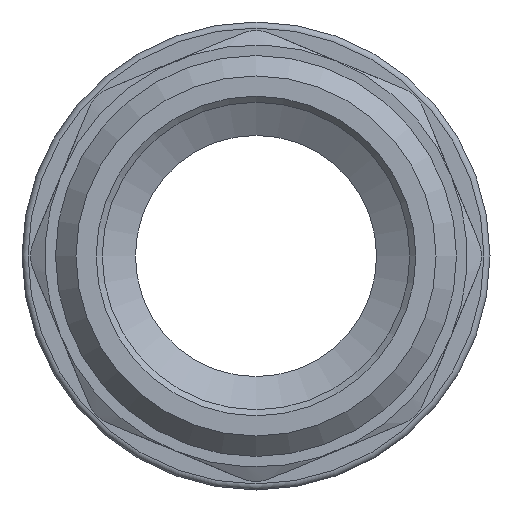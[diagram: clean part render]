
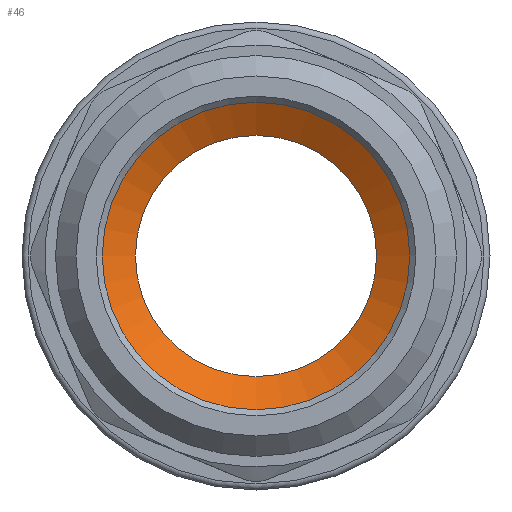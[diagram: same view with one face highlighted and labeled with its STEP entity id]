
A CAD part, front view. The second image highlights one B-rep face of the part: STEP entity #46.
In plain terms, the highlighted conical face has half-angle 60 degrees and reference radius 11.375 mm.
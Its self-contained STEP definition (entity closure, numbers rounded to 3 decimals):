
#46=ADVANCED_FACE('',(#139,#141),#143,.F.);
#139=FACE_OUTER_BOUND('',#140,.T.);
#140=EDGE_LOOP('',(#779));
#141=FACE_BOUND('',#142,.T.);
#142=EDGE_LOOP('',(#780,#781));
#143=CONICAL_SURFACE('',#144,11.375,1.047);
#144=AXIS2_PLACEMENT_3D('',#145,#146,#147);
#145=CARTESIAN_POINT('',(0.,-10.206,0.));
#146=DIRECTION('',(0.,-1.,0.));
#147=DIRECTION('',(1.,0.,0.));
#779=ORIENTED_EDGE('',*,*,#1002,.F.);
#780=ORIENTED_EDGE('',*,*,#1005,.F.);
#781=ORIENTED_EDGE('',*,*,#1004,.F.);
#1002=EDGE_CURVE('',#1116,#1116,#1117,.F.);
#1004=EDGE_CURVE('',#1120,#1121,#1122,.T.);
#1005=EDGE_CURVE('',#1121,#1120,#1123,.T.);
#1116=VERTEX_POINT('',#1324);
#1117=CIRCLE('',#1325,12.75);
#1120=VERTEX_POINT('',#1334);
#1121=VERTEX_POINT('',#1335);
#1122=CIRCLE('',#1336,10.);
#1123=CIRCLE('',#1340,10.);
#1324=CARTESIAN_POINT('',(12.75,-11.,0.));
#1325=AXIS2_PLACEMENT_3D('',#1326,#1327,#1328);
#1326=CARTESIAN_POINT('',(0.,-11.,0.));
#1327=DIRECTION('',(0.,-1.,0.));
#1328=DIRECTION('',(1.,0.,0.));
#1334=CARTESIAN_POINT('',(10.,-9.412,0.));
#1335=CARTESIAN_POINT('',(-10.,-9.412,0.));
#1336=AXIS2_PLACEMENT_3D('',#1337,#1338,#1339);
#1337=CARTESIAN_POINT('',(0.,-9.412,0.));
#1338=DIRECTION('',(0.,-1.,0.));
#1339=DIRECTION('',(1.,0.,0.));
#1340=AXIS2_PLACEMENT_3D('',#1341,#1342,#1343);
#1341=CARTESIAN_POINT('',(0.,-9.412,0.));
#1342=DIRECTION('',(0.,-1.,0.));
#1343=DIRECTION('',(-1.,0.,0.));
